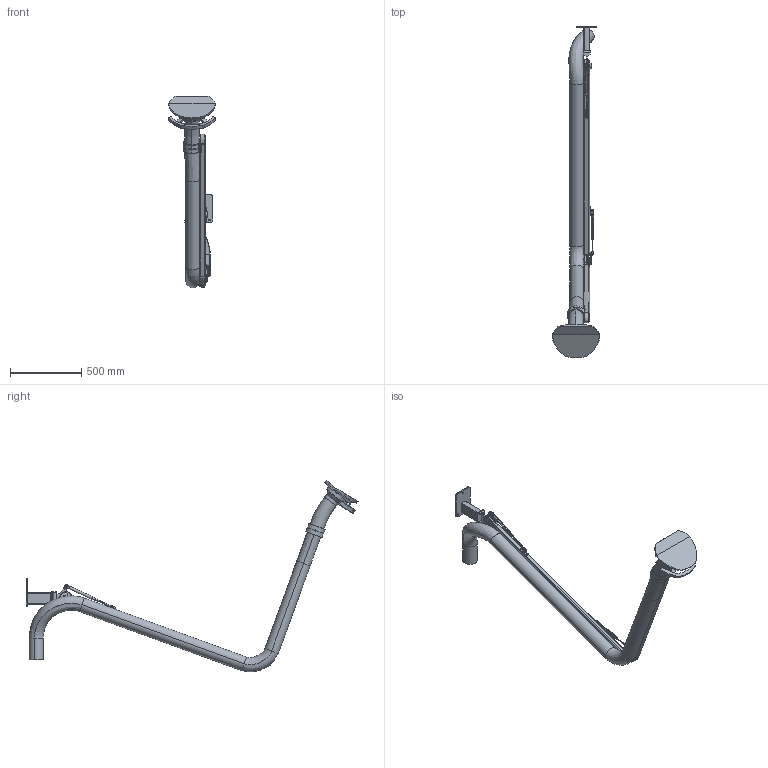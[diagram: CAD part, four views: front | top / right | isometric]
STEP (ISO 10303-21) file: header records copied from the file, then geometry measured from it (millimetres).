
FILE_DESCRIPTION((''),'2;1');
FILE_NAME('PR3000-100_135188','2017-12-20T',('Tomas Bellgran'),(''),'CREO PARAMETRIC BY PTC INC, 2016130','CREO PARAMETRIC BY PTC INC, 2016130','');
FILE_SCHEMA(('AUTOMOTIVE_DESIGN { 1 0 10303 214 1 1 1 1 }'));
Length unit declared in the file: millimetre
Products named in the file (44): 100-6300-01; 100-6300-02; 100-6300-04; 100-6300; 102683; 100-5506_L_LIGHT; 100-5506_R_LIGHT; 100-5506; 100-5404-L_LIGHT; 100-5404-R_LIGHT; 100-5404; 100-5914; 100-5913; 100-5915; 135085; 102679; 100-5512-L_LIGHT; 100-512-R_LIGHT; 100-5512; 122219; 102715; 100-5911; 100-5518; 100-6305-2; 100-6305-1; 100-6305; 134112; 100-5721_LIGHT; 100-5821_LIGHT; 100-5862A_LIGHT; 100-5865A_LIGHT; 100-5826-02; 126054_AF0; 100-6341-100; 136614; 135584; STAB_K4-D4; 130368; 102118-REF; 135588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
Assembly tree (47 placements, depth 5):
  PR3000-100_135188
    100-6300
      100-6300-01
      100-6300-02
      100-6300-04
    134112
      135085
        102683
        100-5506
          100-5506_L_LIGHT
          100-5506_R_LIGHT
        100-5404
          100-5404-L_LIGHT
          100-5404-R_LIGHT
        100-5915  x2
          100-5914
          100-5913
      122219
        102679
        100-5512
          100-5512-L_LIGHT
          100-512-R_LIGHT
      100-5518
        102715
        100-5911
      100-6305
        100-6305-2
        100-6305-1
        100-5911
    100-5721_LIGHT
    100-6341-100
      100-5821_LIGHT
      100-5862A_LIGHT
      100-5865A_LIGHT
      100-5826-02
      126054_AF0
    136614
    130368
      135584
      STAB_K4-D4
    102118-REF
    130371
      135588
      STAB_K4-D4
    102845-REF
      GAS_SPRING_ROD_STABILUS
      STAB_K4-D4
Bounding box: 328.82 x 2328.63 x 1344.55 mm (x, y, z)
Volume: 10378771.5 mm3; surface area: 3225265 mm2
Topology: 35 solids, 36 shells, 866 faces, 2080 edges, 1283 vertices
Faces by surface type: cylinder 273, plane 272, cone 130, torus 83, bspline 78, sphere 26, extrusion 4
Entity records: 43697 total; most frequent: CARTESIAN_POINT 10921, DIRECTION 3880, ORIENTED_EDGE 3618, EDGE_CURVE 1809, PROPERTY_DEFINITION 1742, REPRESENTATION 1713, PROPERTY_DEFINITION_REPRESENTATION 1713, AXIS2_PLACEMENT_3D 1568
